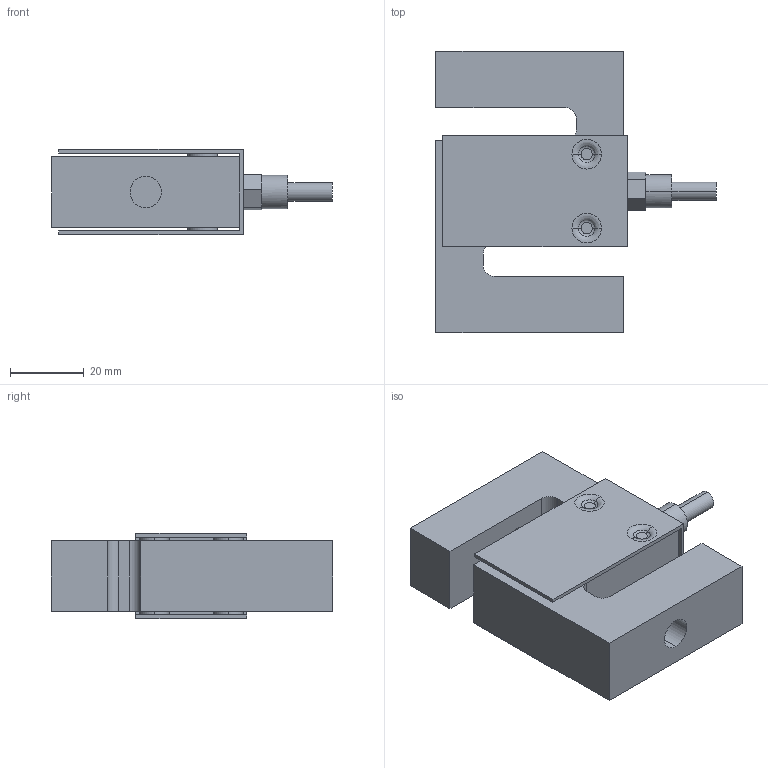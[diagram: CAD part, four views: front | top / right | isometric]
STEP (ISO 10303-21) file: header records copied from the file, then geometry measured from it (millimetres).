
FILE_DESCRIPTION (( 'STEP AP214' ), '1' );
FILE_NAME ('H3 100kg.STEP', '2017-11-28T09:13:40', ( '' ), ( '' ), 'SwSTEP 2.0', 'SolidWorks 2018', '' );
FILE_SCHEMA (( 'AUTOMOTIVE_DESIGN' ));
Length unit declared in the file: millimetre
Products named in the file (1): H3 100kg
Bounding box: 75.8 x 76.2 x 23.01 mm (x, y, z)
Volume: 63744.8 mm3; surface area: 23691.7 mm2
Topology: 5 solids, 5 shells, 93 faces, 212 edges, 136 vertices
Faces by surface type: plane 49, cylinder 28, torus 16
Entity records: 3751 total; most frequent: DIRECTION 500, CARTESIAN_POINT 442, ORIENTED_EDGE 424, EDGE_CURVE 212, AXIS2_PLACEMENT_3D 194, VERTEX_POINT 136, VECTOR 112, LINE 112
